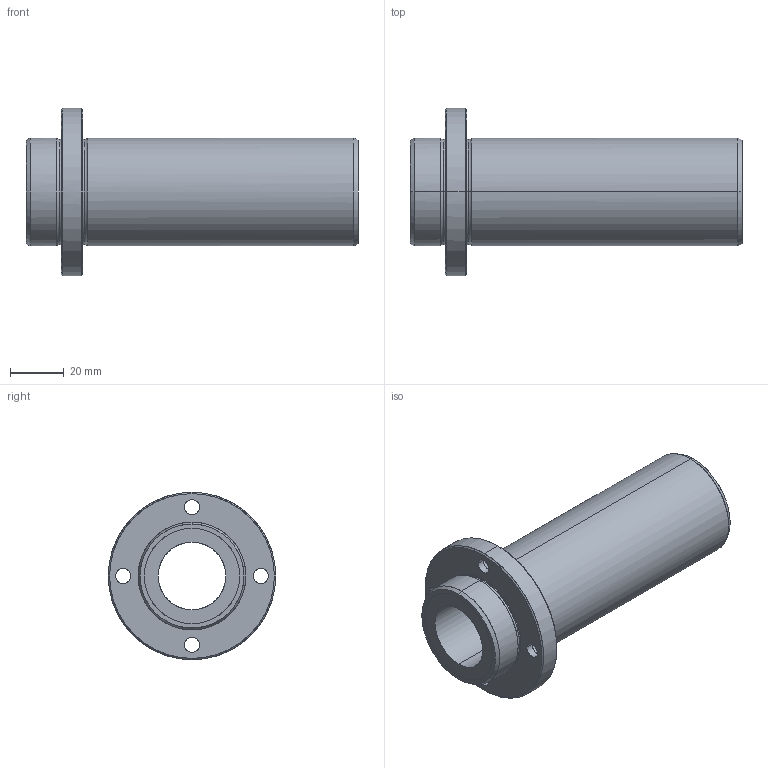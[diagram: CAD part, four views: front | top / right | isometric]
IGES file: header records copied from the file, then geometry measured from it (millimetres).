
Global section: file name: No Iges File Name specified; native system: AutoDesk Inventor R10; preprocessor: AutoDesk Inventor Iges Exporter R10; author: No Author specified; organization: No Organization specified; date: 20101216.153113; units: millimetre
Bounding box: 123 x 62 x 62 mm (x, y, z)
Surface area: 31201.3 mm2 (no closed solid volume)
Topology: 0 solids, 0 shells, 54 faces, 376 edges, 376 vertices
Faces by surface type: bspline 54
